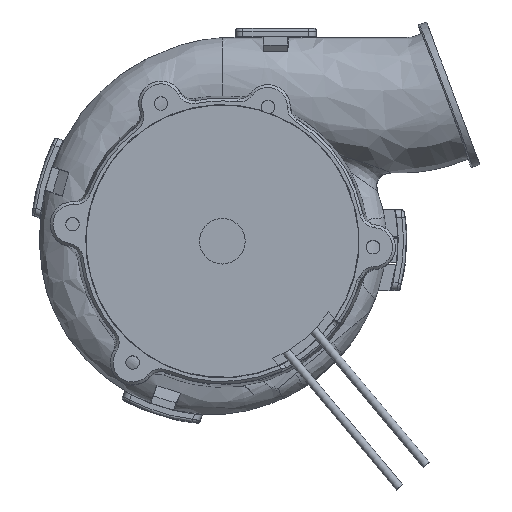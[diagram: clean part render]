
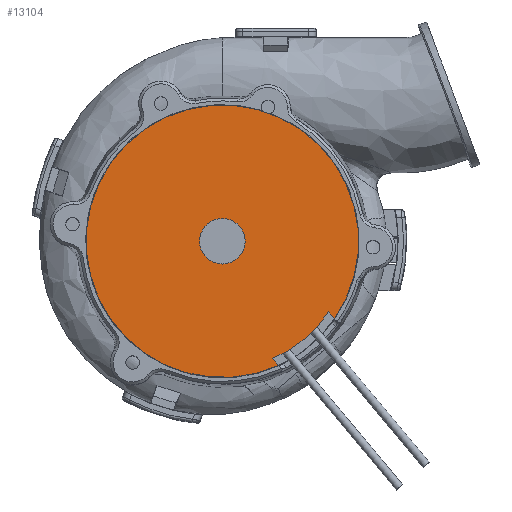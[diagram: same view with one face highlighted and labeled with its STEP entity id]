
A CAD part, top view. The second image highlights one B-rep face of the part: STEP entity #13104.
In plain terms, the highlighted planar face has unit normal (0, 0, 1).
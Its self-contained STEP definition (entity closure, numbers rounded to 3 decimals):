
#3635=CARTESIAN_POINT('',(0.,0.,19.6));
#3636=DIRECTION('',(0.,0.,1.));
#3637=DIRECTION('',(0.823,-0.568,0.));
#3638=AXIS2_PLACEMENT_3D('',#3635,#3636,#3637);
#3786=CARTESIAN_POINT('',(0.,0.,19.6));
#3787=DIRECTION('',(0.,0.,1.));
#3788=DIRECTION('',(0.395,-0.919,0.));
#3789=AXIS2_PLACEMENT_3D('',#3786,#3787,#3788);
#3796=CARTESIAN_POINT('',(0.,0.,19.6));
#3797=DIRECTION('',(0.,0.,-1.));
#3798=DIRECTION('',(1.,0.,0.));
#3799=AXIS2_PLACEMENT_3D('',#3796,#3797,#3798);
#3801=CARTESIAN_POINT('',(0.,0.,19.6));
#3802=DIRECTION('',(0.,0.,-1.));
#3803=DIRECTION('',(-1.,0.,0.));
#3804=AXIS2_PLACEMENT_3D('',#3801,#3802,#3803);
#3806=DIRECTION('',(-0.641,0.767,0.));
#3807=VECTOR('',#3806,0.989);
#3808=CARTESIAN_POINT('',(6.167,-13.619,19.6));
#3809=LINE('',#3808,#3807);
#3810=DIRECTION('',(0.641,-0.767,0.));
#3811=VECTOR('',#3810,0.989);
#3812=CARTESIAN_POINT('',(11.672,-7.731,19.6));
#3813=LINE('',#3812,#3811);
#6399=CARTESIAN_POINT('',(2.5,0.,19.6));
#6400=CARTESIAN_POINT('',(-2.5,0.,19.6));
#6401=VERTEX_POINT('',#6399);
#6402=VERTEX_POINT('',#6400);
#6459=CARTESIAN_POINT('',(12.306,-8.489,19.6));
#6460=CARTESIAN_POINT('',(6.167,-13.619,19.6));
#6461=VERTEX_POINT('',#6459);
#6462=VERTEX_POINT('',#6460);
#6519=CARTESIAN_POINT('',(5.533,-12.86,19.6));
#6520=VERTEX_POINT('',#6519);
#6525=CARTESIAN_POINT('',(11.672,-7.731,19.6));
#6526=VERTEX_POINT('',#6525);
#13087=CARTESIAN_POINT('',(0.,0.,19.6));
#13088=DIRECTION('',(0.,0.,1.));
#13089=DIRECTION('',(1.,0.,0.));
#13090=AXIS2_PLACEMENT_3D('',#13087,#13088,#13089);
#13091=PLANE('',#13090);
#13092=ORIENTED_EDGE('',*,*,#13080,.F.);
#13093=ORIENTED_EDGE('',*,*,#12940,.F.);
#13094=ORIENTED_EDGE('',*,*,#12883,.F.);
#13095=ORIENTED_EDGE('',*,*,#13066,.F.);
#13096=EDGE_LOOP('',(#13092,#13093,#13094,#13095));
#13097=FACE_OUTER_BOUND('',#13096,.F.);
#13099=ORIENTED_EDGE('',*,*,#13098,.F.);
#13101=ORIENTED_EDGE('',*,*,#13100,.F.);
#13102=EDGE_LOOP('',(#13099,#13101));
#13103=FACE_BOUND('',#13102,.F.);
#13104=ADVANCED_FACE('',(#13097,#13103),#13091,.T.);
#3639=CIRCLE('',#3638,14.95);
#3790=CIRCLE('',#3789,14.);
#3800=CIRCLE('',#3799,2.5);
#3805=CIRCLE('',#3804,2.5);
#12883=EDGE_CURVE('',#6461,#6462,#3639,.T.);
#12940=EDGE_CURVE('',#6462,#6520,#3809,.T.);
#13066=EDGE_CURVE('',#6526,#6461,#3813,.T.);
#13080=EDGE_CURVE('',#6520,#6526,#3790,.T.);
#13098=EDGE_CURVE('',#6401,#6402,#3800,.T.);
#13100=EDGE_CURVE('',#6402,#6401,#3805,.T.);
